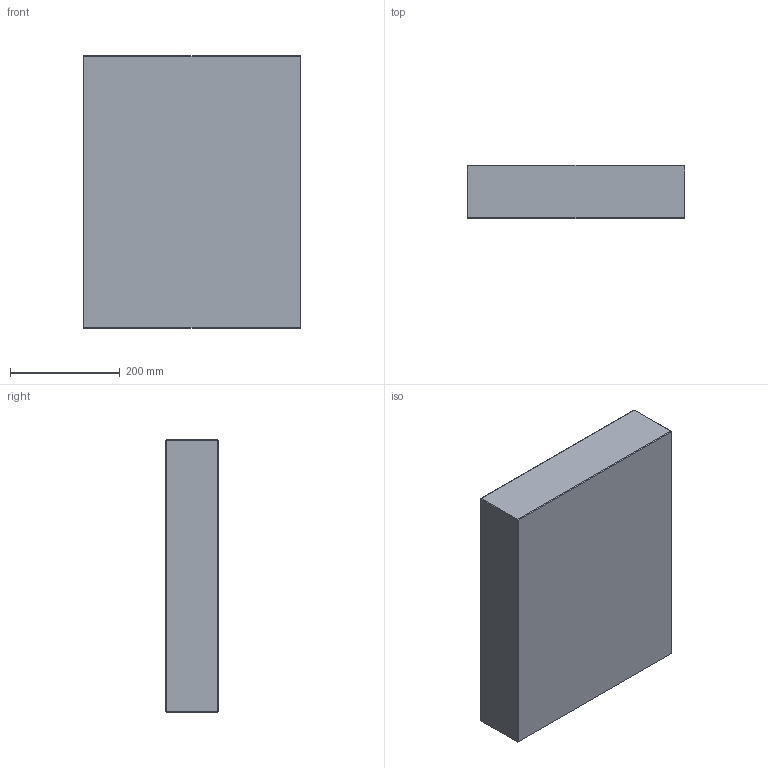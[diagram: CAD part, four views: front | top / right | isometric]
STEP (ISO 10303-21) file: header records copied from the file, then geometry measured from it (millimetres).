
FILE_DESCRIPTION (( 'STEP AP214' ), '1' );
FILE_NAME ('PC-P-396x496x96.STEP', '2020-04-01T10:42:09', ( 'August' ), ( '' ), 'SwSTEP 2.0', 'SolidWorks 2018', '' );
FILE_SCHEMA (( 'AUTOMOTIVE_DESIGN' ));
Length unit declared in the file: millimetre
Products named in the file (1): PC-P-396x496x96
Bounding box: 396 x 96 x 496 mm (x, y, z)
Volume: 18853965.3 mm3; surface area: 561778 mm2
Topology: 1 solids, 1 shells, 26 faces, 48 edges, 24 vertices
Faces by surface type: plane 26
Entity records: 634 total; most frequent: DIRECTION 102, CARTESIAN_POINT 99, ORIENTED_EDGE 96, EDGE_CURVE 48, VECTOR 48, LINE 48, AXIS2_PLACEMENT_3D 27, EDGE_LOOP 26
